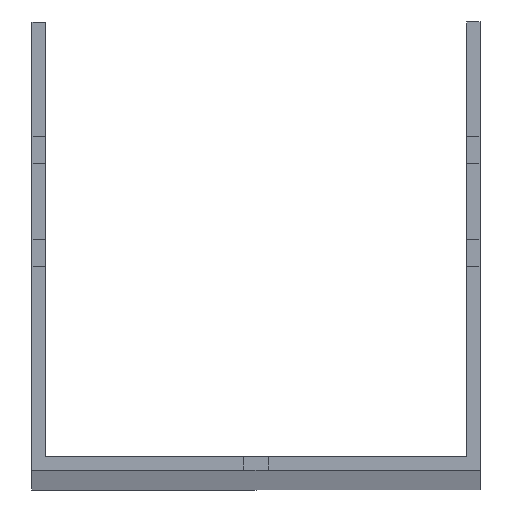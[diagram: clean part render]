
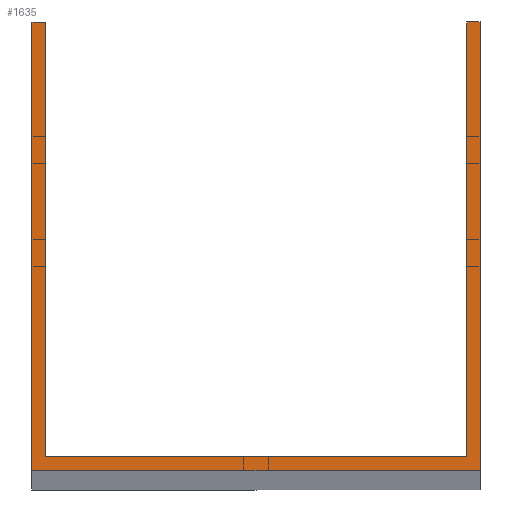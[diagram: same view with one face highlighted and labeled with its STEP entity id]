
A CAD part, top view. The second image highlights one B-rep face of the part: STEP entity #1635.
In plain terms, the highlighted planar face has unit normal (0, 0, 1).
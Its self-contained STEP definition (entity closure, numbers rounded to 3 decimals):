
#18 = VECTOR ( 'NONE', #755, 1000. ) ;
#23 = VERTEX_POINT ( 'NONE', #577 ) ;
#63 = ORIENTED_EDGE ( 'NONE', *, *, #1034, .F. ) ;
#65 = LINE ( 'NONE', #1626, #593 ) ;
#66 = EDGE_LOOP ( 'NONE', ( #1581, #812, #1125, #1156, #1371, #639, #747, #63 ) ) ;
#70 = EDGE_CURVE ( 'NONE', #982, #1501, #65, .T. ) ;
#81 = LINE ( 'NONE', #879, #463 ) ;
#111 = CARTESIAN_POINT ( 'NONE',  ( -58.75, 117.5, 1500. ) ) ;
#139 = LINE ( 'NONE', #601, #354 ) ;
#195 = EDGE_CURVE ( 'NONE', #873, #670, #1537, .T. ) ;
#323 = CARTESIAN_POINT ( 'NONE',  ( -58.75, 3.5, 1500. ) ) ;
#350 = CARTESIAN_POINT ( 'NONE',  ( -55.25, 3.5, 1500. ) ) ;
#354 = VECTOR ( 'NONE', #728, 1000. ) ;
#381 = VECTOR ( 'NONE', #1618, 1000. ) ;
#385 = PLANE ( 'NONE',  #1168 ) ;
#455 = EDGE_CURVE ( 'NONE', #1501, #498, #576, .T. ) ;
#463 = VECTOR ( 'NONE', #998, 1000. ) ;
#496 = FACE_OUTER_BOUND ( 'NONE', #66, .T. ) ;
#498 = VERTEX_POINT ( 'NONE', #604 ) ;
#508 = VERTEX_POINT ( 'NONE', #764 ) ;
#576 = LINE ( 'NONE', #972, #733 ) ;
#577 = CARTESIAN_POINT ( 'NONE',  ( 55.25, 3.5, 1500. ) ) ;
#584 = DIRECTION ( 'NONE',  ( 1., 0., 0. ) ) ;
#590 = CARTESIAN_POINT ( 'NONE',  ( -55.25, 117.5, 1500. ) ) ;
#593 = VECTOR ( 'NONE', #584, 1000. ) ;
#601 = CARTESIAN_POINT ( 'NONE',  ( -58.75, 117.5, 1500. ) ) ;
#602 = LINE ( 'NONE', #590, #1196 ) ;
#604 = CARTESIAN_POINT ( 'NONE',  ( 58.75, 117.5, 1500. ) ) ;
#626 = DIRECTION ( 'NONE',  ( 0., -1., 0. ) ) ;
#639 = ORIENTED_EDGE ( 'NONE', *, *, #1144, .T. ) ;
#645 = DIRECTION ( 'NONE',  ( 0., 0., 1. ) ) ;
#670 = VERTEX_POINT ( 'NONE', #927 ) ;
#723 = DIRECTION ( 'NONE',  ( 0., 1., 0. ) ) ;
#728 = DIRECTION ( 'NONE',  ( 0., -1., 0. ) ) ;
#733 = VECTOR ( 'NONE', #723, 1000. ) ;
#747 = ORIENTED_EDGE ( 'NONE', *, *, #1509, .F. ) ;
#755 = DIRECTION ( 'NONE',  ( -1., 0., 0. ) ) ;
#758 = EDGE_CURVE ( 'NONE', #670, #982, #139, .T. ) ;
#764 = CARTESIAN_POINT ( 'NONE',  ( 55.25, 117.5, 1500. ) ) ;
#812 = ORIENTED_EDGE ( 'NONE', *, *, #195, .T. ) ;
#873 = VERTEX_POINT ( 'NONE', #912 ) ;
#879 = CARTESIAN_POINT ( 'NONE',  ( -58.75, 117.5, 1500. ) ) ;
#893 = DIRECTION ( 'NONE',  ( 1., 0., 0. ) ) ;
#912 = CARTESIAN_POINT ( 'NONE',  ( -55.25, 117.5, 1500. ) ) ;
#917 = VECTOR ( 'NONE', #1370, 1000. ) ;
#927 = CARTESIAN_POINT ( 'NONE',  ( -58.75, 117.5, 1500. ) ) ;
#972 = CARTESIAN_POINT ( 'NONE',  ( 58.75, 117.5, 1500. ) ) ;
#979 = CARTESIAN_POINT ( 'NONE',  ( 55.25, 117.5, 1500. ) ) ;
#982 = VERTEX_POINT ( 'NONE', #1336 ) ;
#988 = LINE ( 'NONE', #979, #381 ) ;
#998 = DIRECTION ( 'NONE',  ( -1., 0., 0. ) ) ;
#1026 = VERTEX_POINT ( 'NONE', #350 ) ;
#1034 = EDGE_CURVE ( 'NONE', #1026, #23, #1230, .T. ) ;
#1125 = ORIENTED_EDGE ( 'NONE', *, *, #758, .T. ) ;
#1144 = EDGE_CURVE ( 'NONE', #498, #508, #81, .T. ) ;
#1156 = ORIENTED_EDGE ( 'NONE', *, *, #70, .T. ) ;
#1168 = AXIS2_PLACEMENT_3D ( 'NONE', #1286, #645, #893 ) ;
#1173 = EDGE_CURVE ( 'NONE', #873, #1026, #602, .T. ) ;
#1196 = VECTOR ( 'NONE', #626, 1000. ) ;
#1230 = LINE ( 'NONE', #323, #917 ) ;
#1286 = CARTESIAN_POINT ( 'NONE',  ( 0., 0., 1500. ) ) ;
#1336 = CARTESIAN_POINT ( 'NONE',  ( -58.75, 0., 1500. ) ) ;
#1370 = DIRECTION ( 'NONE',  ( 1., 0., 0. ) ) ;
#1371 = ORIENTED_EDGE ( 'NONE', *, *, #455, .T. ) ;
#1501 = VERTEX_POINT ( 'NONE', #1576 ) ;
#1509 = EDGE_CURVE ( 'NONE', #23, #508, #988, .T. ) ;
#1537 = LINE ( 'NONE', #111, #18 ) ;
#1576 = CARTESIAN_POINT ( 'NONE',  ( 58.75, 0., 1500. ) ) ;
#1581 = ORIENTED_EDGE ( 'NONE', *, *, #1173, .F. ) ;
#1618 = DIRECTION ( 'NONE',  ( 0., 1., 0. ) ) ;
#1626 = CARTESIAN_POINT ( 'NONE',  ( -58.75, 0., 1500. ) ) ;
#1635 = ADVANCED_FACE ( 'NONE', ( #496 ), #385, .T. ) ;
